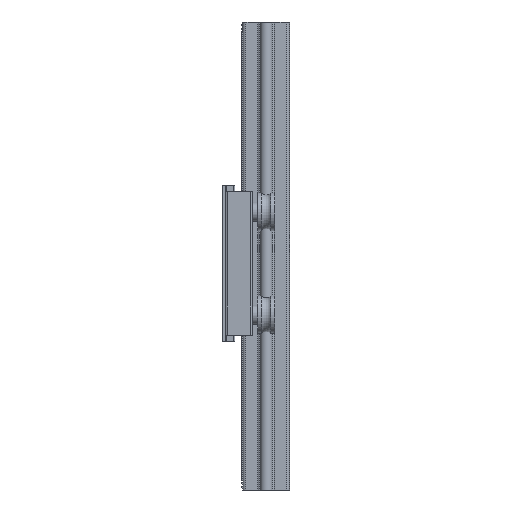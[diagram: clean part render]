
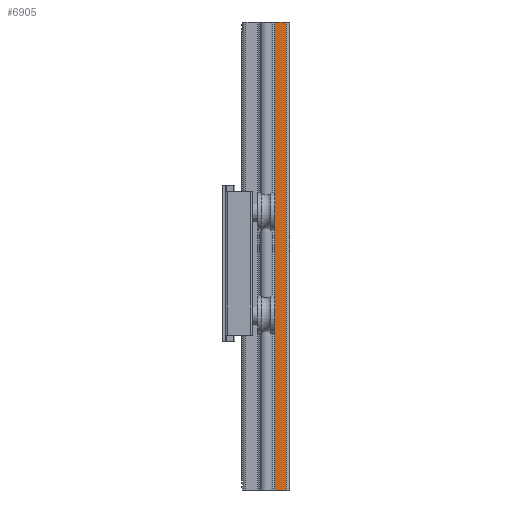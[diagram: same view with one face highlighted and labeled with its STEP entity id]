
A CAD part, left-side view. The second image highlights one B-rep face of the part: STEP entity #6905.
In plain terms, the highlighted planar face has unit normal (-1, 0, 0).
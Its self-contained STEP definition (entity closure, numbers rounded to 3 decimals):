
#179 = ORIENTED_EDGE ( 'NONE', *, *, #6061, .T. ) ;
#400 = EDGE_CURVE ( 'NONE', #9428, #4701, #5484, .T. ) ;
#1350 = EDGE_LOOP ( 'NONE', ( #2967, #10509, #7824, #179 ) ) ;
#1774 = VERTEX_POINT ( 'NONE', #5822 ) ;
#2066 = CARTESIAN_POINT ( 'NONE',  ( -15., 0., 300. ) ) ;
#2137 = CARTESIAN_POINT ( 'NONE',  ( -15., -5.4, 300. ) ) ;
#2174 = LINE ( 'NONE', #9353, #10896 ) ;
#2288 = DIRECTION ( 'NONE',  ( 0., 0., -1. ) ) ;
#2768 = CARTESIAN_POINT ( 'NONE',  ( -15., 0., 300. ) ) ;
#2881 = FACE_OUTER_BOUND ( 'NONE', #1350, .T. ) ;
#2967 = ORIENTED_EDGE ( 'NONE', *, *, #9744, .T. ) ;
#3400 = CARTESIAN_POINT ( 'NONE',  ( -15., -13., 300. ) ) ;
#3639 = DIRECTION ( 'NONE',  ( 0., -1., 0. ) ) ;
#3748 = PLANE ( 'NONE',  #10546 ) ;
#4701 = VERTEX_POINT ( 'NONE', #10085 ) ;
#5146 = VECTOR ( 'NONE', #8908, 1000. ) ;
#5484 = LINE ( 'NONE', #2768, #5146 ) ;
#5775 = EDGE_CURVE ( 'NONE', #4701, #1774, #7803, .T. ) ;
#5822 = CARTESIAN_POINT ( 'NONE',  ( -15., -13., 0. ) ) ;
#6061 = EDGE_CURVE ( 'NONE', #9428, #10647, #2174, .T. ) ;
#6408 = DIRECTION ( 'NONE',  ( 0., 0., -1. ) ) ;
#6905 = ADVANCED_FACE ( 'NONE', ( #2881 ), #3748, .F. ) ;
#6999 = LINE ( 'NONE', #7282, #10626 ) ;
#7282 = CARTESIAN_POINT ( 'NONE',  ( -15., 0., 0. ) ) ;
#7450 = DIRECTION ( 'NONE',  ( 1., 0., 0. ) ) ;
#7803 = LINE ( 'NONE', #3400, #9815 ) ;
#7824 = ORIENTED_EDGE ( 'NONE', *, *, #400, .F. ) ;
#8896 = CARTESIAN_POINT ( 'NONE',  ( -15., -5.4, 0. ) ) ;
#8908 = DIRECTION ( 'NONE',  ( 0., -1., 0. ) ) ;
#9353 = CARTESIAN_POINT ( 'NONE',  ( -15., -5.4, 300. ) ) ;
#9428 = VERTEX_POINT ( 'NONE', #2137 ) ;
#9744 = EDGE_CURVE ( 'NONE', #10647, #1774, #6999, .T. ) ;
#9815 = VECTOR ( 'NONE', #10455, 1000. ) ;
#10085 = CARTESIAN_POINT ( 'NONE',  ( -15., -13., 300. ) ) ;
#10455 = DIRECTION ( 'NONE',  ( 0., 0., -1. ) ) ;
#10509 = ORIENTED_EDGE ( 'NONE', *, *, #5775, .F. ) ;
#10546 = AXIS2_PLACEMENT_3D ( 'NONE', #2066, #7450, #6408 ) ;
#10626 = VECTOR ( 'NONE', #3639, 1000. ) ;
#10647 = VERTEX_POINT ( 'NONE', #8896 ) ;
#10896 = VECTOR ( 'NONE', #2288, 1000. ) ;
